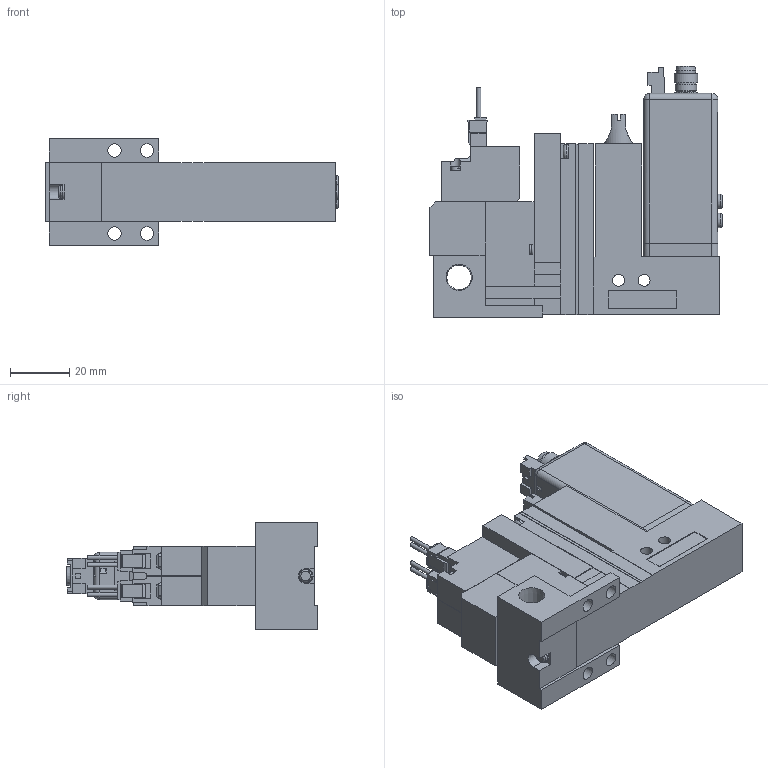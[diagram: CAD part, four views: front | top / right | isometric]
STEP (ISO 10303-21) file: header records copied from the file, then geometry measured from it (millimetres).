
FILE_DESCRIPTION(('STEP AP203'),'1');
FILE_NAME('22_22PLC5BLR101.stp','2025-06-05T08:52:42',(' '),(' '),'Spatial InterOp 3D',' ',' ');
FILE_SCHEMA(('CONFIG_CONTROL_DESIGN'));
Length unit declared in the file: millimetre
Products named in the file (5): BMC22M※※※※22_22PLC5BLR101; Solenoid valve B; Unit LC; Base MR10R; MVS-202
Assembly tree (4 placements, depth 2):
  BMC22M※※※※22_22PLC5BLR101
    Solenoid valve B
    Unit LC
    Base MR10R
    MVS-202
Bounding box: 98.5 x 84.6 x 36 mm (x, y, z)
Volume: 113502.2 mm3; surface area: 33678.5 mm2
Topology: 4 solids, 8 shells, 801 faces, 2092 edges, 1366 vertices
Faces by surface type: plane 672, cylinder 99, cone 18, torus 8, sphere 4
Full cylindrical faces by diameter (mm): 1 x4, 1.4 x4, 1.5 x1, 2.5 x1, 3 x4, 3.5 x4, 3.6 x1, 4 x2, 4.134 x1, 4.5 x8, 4.8 x3, 5 x2, 5.2 x1, 5.8 x2, 6 x2, 6.5 x3, 6.6 x1, 7 x1, 7.2 x1, 7.9 x1, 8 x2, 8.279 x1
Entity records: 24133 total; most frequent: CARTESIAN_POINT 4395, ORIENTED_EDGE 3974, DIRECTION 3847, EDGE_CURVE 1987, LINE 1701, VECTOR 1701, VERTEX_POINT 1345, AXIS2_PLACEMENT_3D 1073
